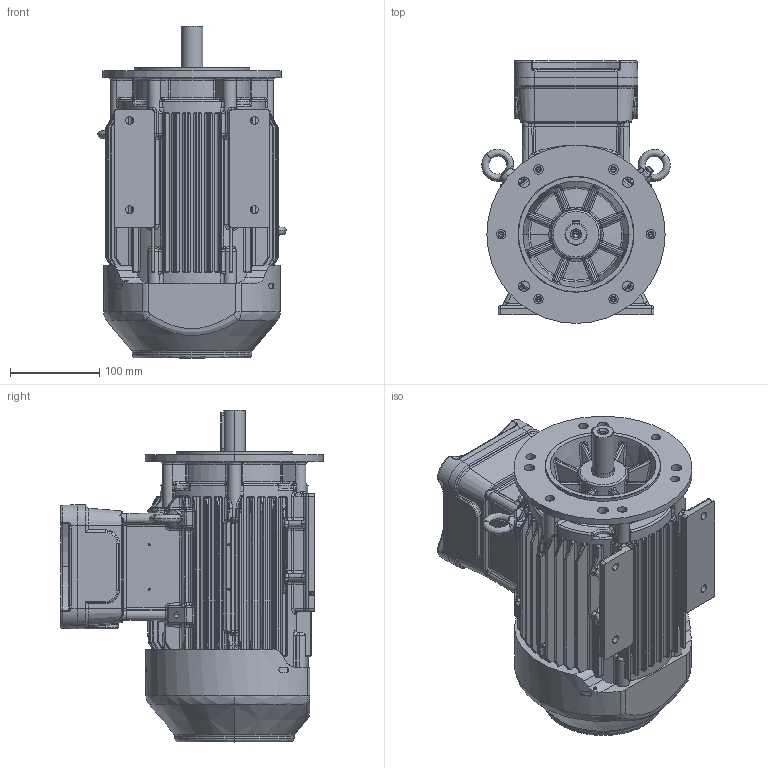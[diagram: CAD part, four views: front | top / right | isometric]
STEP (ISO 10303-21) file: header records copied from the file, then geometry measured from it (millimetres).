
FILE_DESCRIPTION (( 'STEP AP214' ), '1' );
FILE_NAME ('6RD90S2E3 IM2001.STEP', '2021-07-26T08:11:53', ( '' ), ( '' ), 'SwSTEP 2.0', 'SolidWorks 2018', '' );
FILE_SCHEMA (( 'AUTOMOTIVE_DESIGN' ));
Length unit declared in the file: millimetre
Products named in the file (1): 6RD90S2E3 IM2001
Bounding box: 211.64 x 295 x 372.5 mm (x, y, z)
Volume: 9415786.4 mm3; surface area: 512231.5 mm2
Topology: 1 solids, 29 shells, 4078 faces, 9837 edges, 5762 vertices
Faces by surface type: cylinder 1646, bspline 1004, plane 665, torus 338, sphere 225, cone 200
Entity records: 181004 total; most frequent: CARTESIAN_POINT 95865, ORIENTED_EDGE 19134, DIRECTION 16548, EDGE_CURVE 9567, AXIS2_PLACEMENT_3D 6954, VERTEX_POINT 5760, EDGE_LOOP 4319, FACE_OUTER_BOUND 4078
